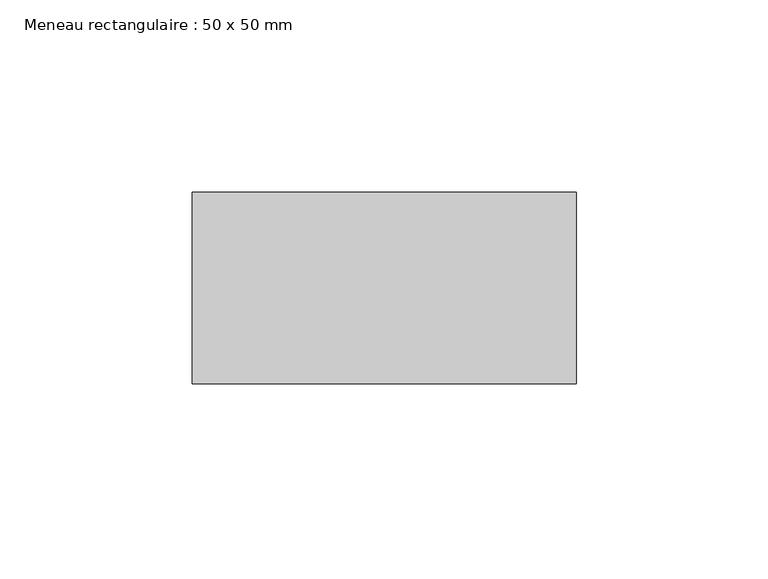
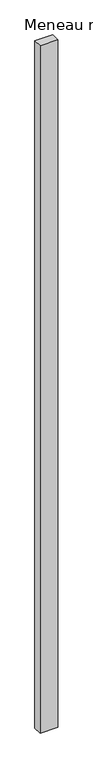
"""IFC4 building model written with IfcOpenShell, lengths in millimetres: member geometry, Meneau rectangulaire : 50 x 50 mm."""

import ifcopenshell
import ifcopenshell.guid

model = None  # the IFC model being written
_history = None  # IfcOwnerHistory: only IFC2X3 demands one
_inside = {}  # id of a spatial element -> (the spatial element, [elements in it])
_under = {}  # id of a project, library or spatial element -> (it, [spatial elements below it])
_declared = {}  # id of a project -> (the project, [libraries it declares])
_typed = {}  # id of a type object -> (the type object, [elements of that type])
_made_of = {}  # id of a material, layer set ... -> (it, [elements and type objects made of it])


def new_model(schema):
    """Start an empty IFC model of exactly this schema.

    Asked for "IFC4X3", IfcOpenShell would pick the latest addendum, in which some entities
    have other attributes; the version numbers below select the first issue.
    IFC2X3 requires an IfcOwnerHistory on every rooted entity: one is made here for all.
    """
    global model, _history
    if schema == "IFC4X3":
        model = ifcopenshell.file(schema_version=(4, 3, 0, 0))
    else:
        model = ifcopenshell.file(schema=schema)
    _inside.clear()
    _under.clear()
    _declared.clear()
    _typed.clear()
    _made_of.clear()
    _history = None
    if model.schema == "IFC2X3":
        org = make("IfcOrganization", Name="unknown")
        user = make(
            "IfcPersonAndOrganization",
            ThePerson=make("IfcPerson", FamilyName="unknown"),
            TheOrganization=org,
        )
        app = make(
            "IfcApplication",
            ApplicationDeveloper=org,
            Version="unknown",
            ApplicationFullName="unknown",
            ApplicationIdentifier="unknown",
        )
        _history = make(
            "IfcOwnerHistory",
            OwningUser=user,
            OwningApplication=app,
            ChangeAction="ADDED",
            CreationDate=0,
        )
    return model


def make(cls, **values):
    """One entity of the class cls with the attributes given. An attribute that is None is left unset."""
    return model.create_entity(
        cls, **{name: value for name, value in values.items() if value is not None}
    )


def rooted(cls, **values):
    """An entity with a GlobalId (a new one), such as an element, a storey or a relation."""
    return make(cls, GlobalId=ifcopenshell.guid.new(), OwnerHistory=_history, **values)


def si_unit(unit_type, name, prefix=None):
    """IfcSIUnit, for example si_unit("LENGTHUNIT", "METRE", prefix="MILLI")."""
    return make("IfcSIUnit", UnitType=unit_type, Prefix=prefix, Name=name)


def assignment(units):
    """IfcUnitAssignment: the units of a project."""
    return None if units is None else make("IfcUnitAssignment", Units=units)


def point(xyz):
    """IfcCartesianPoint."""
    return None if xyz is None else make("IfcCartesianPoint", Coordinates=xyz)


def direction(xyz):
    """IfcDirection."""
    return None if xyz is None else make("IfcDirection", DirectionRatios=xyz)


def frame(location, z_axis=None, x_axis=None):
    """IfcAxis2Placement3D, a coordinate frame: its origin and axes. An axis left out is left unset."""
    return make(
        "IfcAxis2Placement3D",
        Location=point(location),
        Axis=direction(z_axis),
        RefDirection=direction(x_axis),
    )


def origin():
    """The frame at (0, 0, 0) with its axes left unset."""
    return frame((0.0, 0.0, 0.0))


def place(relative_to, where):
    """IfcLocalPlacement: puts the frame where relative to a parent placement (None: the world)."""
    return make(
        "IfcLocalPlacement", PlacementRelTo=relative_to, RelativePlacement=where
    )


def context(
    kind, dimensions, precision=None, world=None, true_north=None, identifier=None
):
    """IfcGeometricRepresentationContext, for example the 3D "Model" context."""
    return make(
        "IfcGeometricRepresentationContext",
        ContextIdentifier=identifier,
        ContextType=kind,
        CoordinateSpaceDimension=dimensions,
        Precision=precision,
        WorldCoordinateSystem=world,
        TrueNorth=true_north,
    )


def project(units=None, contexts=None):
    """IfcProject with its units and contexts."""
    return rooted(
        "IfcProject",
        Name="project",
        RepresentationContexts=contexts,
        UnitsInContext=assignment(units),
    )


def spatial(cls, under=None, at=None, **own):
    """A site, building, storey or space (cls), placed at a placement, below another one or the project."""
    s = rooted(cls, ObjectPlacement=at, **own)
    if under is not None:
        _under.setdefault(under.id(), (under, []))[1].append(s)
    return s


def polyline(points):
    """IfcPolyline through the points."""
    return make("IfcPolyline", Points=[point(p) for p in points])


def outline(outer, holes=None, kind="AREA"):
    """IfcArbitraryClosedProfileDef: a profile drawn as a closed curve; with holes, ...WithVoids."""
    if holes is None:
        return make("IfcArbitraryClosedProfileDef", ProfileType=kind, OuterCurve=outer)
    return make(
        "IfcArbitraryProfileDefWithVoids",
        ProfileType=kind,
        OuterCurve=outer,
        InnerCurves=holes,
    )


def extrude(swept, where, along, depth):
    """IfcExtrudedAreaSolid: the profile swept, set in the frame where, extruded along a direction by depth."""
    return make(
        "IfcExtrudedAreaSolid",
        SweptArea=swept,
        Position=where,
        ExtrudedDirection=direction(along),
        Depth=depth,
    )


def shape(context_of_items, identifier, shape_type, items):
    """IfcShapeRepresentation: the items that make up one representation, for example the "Body"."""
    return make(
        "IfcShapeRepresentation",
        ContextOfItems=context_of_items,
        RepresentationIdentifier=identifier,
        RepresentationType=shape_type,
        Items=items,
    )


def source(mapping_origin, context_of_items, identifier, shape_type, items):
    """IfcRepresentationMap: a shape defined once, which mapped items show again and again."""
    return make(
        "IfcRepresentationMap",
        MappingOrigin=mapping_origin,
        MappedRepresentation=shape(context_of_items, identifier, shape_type, items),
    )


def transform(
    local_origin,
    x_axis=None,
    y_axis=None,
    z_axis=None,
    scale=None,
    scale2=None,
    scale3=None,
    uniform=True,
):
    """IfcCartesianTransformationOperator3D, or its non-uniform kind. x_axis, y_axis, z_axis: its Axis1, 2, 3."""
    if uniform:
        return make(
            "IfcCartesianTransformationOperator3D",
            Axis1=direction(x_axis),
            Axis2=direction(y_axis),
            LocalOrigin=point(local_origin),
            Scale=scale,
            Axis3=direction(z_axis),
        )
    return make(
        "IfcCartesianTransformationOperator3DnonUniform",
        Axis1=direction(x_axis),
        Axis2=direction(y_axis),
        LocalOrigin=point(local_origin),
        Scale=scale,
        Axis3=direction(z_axis),
        Scale2=scale2,
        Scale3=scale3,
    )


def mapped(mapping_source, mapping_target):
    """IfcMappedItem: shows the shape of a source again, moved by a transform."""
    return make(
        "IfcMappedItem", MappingSource=mapping_source, MappingTarget=mapping_target
    )


def made_of(thing, what):
    """Note that an element or type object is made of a material, layer set ...; save() writes the relation."""
    if what is not None:
        _made_of.setdefault(what.id(), (what, []))[1].append(thing)
    return thing


def element(
    cls,
    number,
    at=None,
    inside=None,
    cuts=None,
    type_object=None,
    material=None,
    context=None,
    identifier="Body",
    shape_type=None,
    held_by="IfcProductDefinitionShape",
    body=None,
    shapes=None,
    **own,
):
    """One element of the class cls, such as IfcWall. Its Tag is "e" and its number.

    at: its placement. inside: the storey or other place that contains it. cuts: it is an
    opening in that element (IfcRelVoidsElement). A single representation is given by context,
    identifier, shape_type and body (its items); several are given by shapes. held_by: the class
    of the entity that holds the representations. save() writes the other relations.
    """
    e = rooted(cls, Tag="e%d" % number, ObjectPlacement=at, **own)
    if body is not None:
        shapes = [shape(context, identifier, shape_type, body)]
    if shapes is not None:
        e.Representation = make(held_by, Representations=shapes)
    if inside is not None:
        _inside.setdefault(inside.id(), (inside, []))[1].append(e)
    if cuts is not None:
        rooted(
            "IfcRelVoidsElement", RelatingBuildingElement=cuts, RelatedOpeningElement=e
        )
    if type_object is not None:
        _typed.setdefault(type_object.id(), (type_object, []))[1].append(e)
    return made_of(e, material)


def aggregate(whole, parts):
    """IfcRelAggregates: a whole, such as a stair, and the parts it consists of."""
    return rooted("IfcRelAggregates", RelatingObject=whole, RelatedObjects=parts)


def save(model, path):
    """Write the relations noted so far, then the file.

    IfcRelAggregates (storeys below a building ...), IfcRelContainedInSpatialStructure (elements
    in a storey), IfcRelDefinesByType, IfcRelAssociatesMaterial and IfcRelDeclares: one each for
    every whole, place, type object, material and project.
    """
    for whole, parts in _under.values():
        aggregate(whole, parts)
    for where, things in _inside.values():
        rooted(
            "IfcRelContainedInSpatialStructure",
            RelatedElements=things,
            RelatingStructure=where,
        )
    for kind, things in _typed.values():
        rooted("IfcRelDefinesByType", RelatedObjects=things, RelatingType=kind)
    for what, things in _made_of.values():
        rooted("IfcRelAssociatesMaterial", RelatedObjects=things, RelatingMaterial=what)
    for by, libraries in _declared.values():
        rooted("IfcRelDeclares", RelatingContext=by, RelatedDefinitions=libraries)
    model.write(path)


def meneau_rectangulaire_50_x_50_mm_859d5cea(model_context):
    return source(origin(), model_context, "Body", "SweptSolid", [
        extrude(outline(polyline([(0.0, 0.0), (0.0, -50.0), (-100.0, -50.0), (-100.0, 0.0), (0.0, 0.0)])), frame((0.0, 0.0, -4111.4615249), z_axis=(0.0, 0.0, 1.0), x_axis=(1.0, 0.0, 0.0)), (0.0, 0.0, 1.0), 4111.4615249),
    ])


if __name__ == "__main__":
    model = new_model("IFC4")
    model_context = context("Model", 3, world=origin())
    ifc_project = project(units=[si_unit("LENGTHUNIT", "METRE", prefix="MILLI")], contexts=[model_context])
    site = spatial("IfcSite", under=ifc_project)
    building = spatial("IfcBuilding", under=site)
    placement = place(None, origin())
    meneau_rectangulaire_50_x_50_mm_shape = meneau_rectangulaire_50_x_50_mm_859d5cea(model_context)
    element("IfcMember", 1, ObjectType="Meneau rectangulaire : 50 x 50 mm", at=placement, inside=building, context=model_context, shape_type="MappedRepresentation", body=[
        mapped(meneau_rectangulaire_50_x_50_mm_shape, transform((0.0, 0.0, 0.0), x_axis=(1.0, 0.0, 0.0), y_axis=(0.0, 1.0, 0.0), z_axis=(0.0, 0.0, 1.0))),
    ])
    save(model, "model.ifc")
